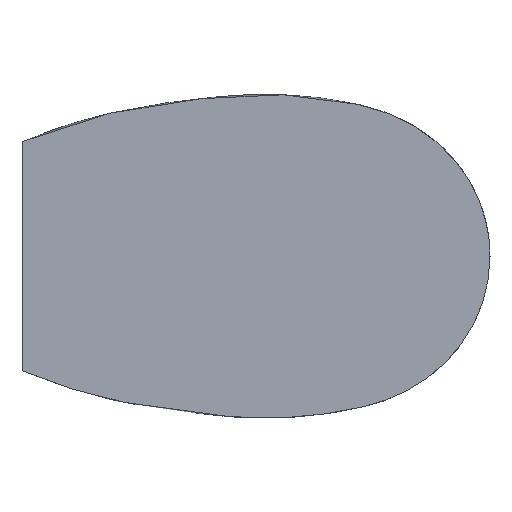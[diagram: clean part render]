
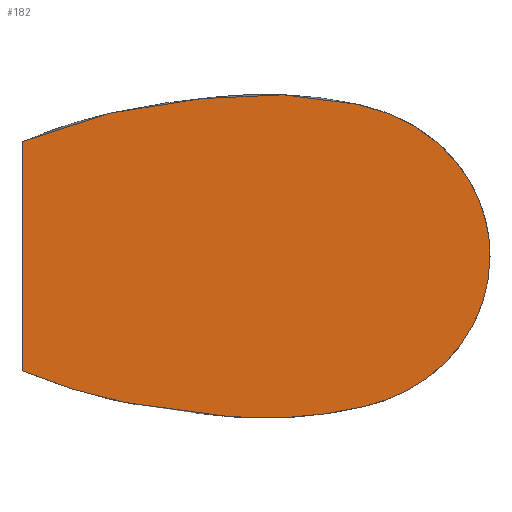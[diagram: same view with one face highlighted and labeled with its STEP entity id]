
A CAD part, left-side view. The second image highlights one B-rep face of the part: STEP entity #182.
In plain terms, the highlighted planar face has unit normal (-1, 0, 0).
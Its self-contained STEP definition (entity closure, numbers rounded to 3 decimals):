
#6=DIRECTION('',(0.,0.,1.));
#7=VECTOR('',#6,1.741);
#8=CARTESIAN_POINT('',(-9.,-0.3,-0.871));
#9=LINE('',#8,#7);
#10=CARTESIAN_POINT('',(-9.,-0.3,0.871));
#11=CARTESIAN_POINT('',(-9.,-0.44,0.929));
#12=CARTESIAN_POINT('',(-9.,-0.726,1.03));
#13=CARTESIAN_POINT('',(-9.,-1.094,1.119));
#14=CARTESIAN_POINT('',(-9.,-1.394,1.166));
#15=CARTESIAN_POINT('',(-9.,-1.585,1.187));
#16=CARTESIAN_POINT('',(-9.,-1.74,1.207));
#17=CARTESIAN_POINT('',(-9.,-1.899,1.222));
#18=CARTESIAN_POINT('',(-9.,-2.114,1.232));
#19=CARTESIAN_POINT('',(-9.,-2.34,1.226));
#20=CARTESIAN_POINT('',(-9.,-2.532,1.208));
#21=CARTESIAN_POINT('',(-9.,-2.679,1.187));
#22=CARTESIAN_POINT('',(-9.,-2.826,1.159));
#23=CARTESIAN_POINT('',(-9.,-3.023,1.114));
#24=CARTESIAN_POINT('',(-9.,-3.213,1.035));
#25=CARTESIAN_POINT('',(-9.,-3.385,0.924));
#26=CARTESIAN_POINT('',(-9.,-3.503,0.825));
#27=CARTESIAN_POINT('',(-9.,-3.607,0.711));
#28=CARTESIAN_POINT('',(-9.,-3.696,0.584));
#29=CARTESIAN_POINT('',(-9.,-3.766,0.447));
#30=CARTESIAN_POINT('',(-9.,-3.817,0.302));
#31=CARTESIAN_POINT('',(-9.,-3.848,0.152));
#32=CARTESIAN_POINT('',(-9.,-3.855,0.051));
#33=CARTESIAN_POINT('',(-9.,-3.855,0.));
#35=CARTESIAN_POINT('',(-9.,-3.855,0.));
#36=CARTESIAN_POINT('',(-9.,-3.855,-0.051));
#37=CARTESIAN_POINT('',(-9.,-3.848,-0.152));
#38=CARTESIAN_POINT('',(-9.,-3.817,-0.302));
#39=CARTESIAN_POINT('',(-9.,-3.766,-0.447));
#40=CARTESIAN_POINT('',(-9.,-3.696,-0.584));
#41=CARTESIAN_POINT('',(-9.,-3.607,-0.711));
#42=CARTESIAN_POINT('',(-9.,-3.503,-0.825));
#43=CARTESIAN_POINT('',(-9.,-3.385,-0.924));
#44=CARTESIAN_POINT('',(-9.,-3.213,-1.035));
#45=CARTESIAN_POINT('',(-9.,-3.023,-1.114));
#46=CARTESIAN_POINT('',(-9.,-2.826,-1.159));
#47=CARTESIAN_POINT('',(-9.,-2.679,-1.187));
#48=CARTESIAN_POINT('',(-9.,-2.532,-1.208));
#49=CARTESIAN_POINT('',(-9.,-2.34,-1.226));
#50=CARTESIAN_POINT('',(-9.,-2.114,-1.232));
#51=CARTESIAN_POINT('',(-9.,-1.899,-1.222));
#52=CARTESIAN_POINT('',(-9.,-1.74,-1.207));
#53=CARTESIAN_POINT('',(-9.,-1.585,-1.187));
#54=CARTESIAN_POINT('',(-9.,-1.394,-1.166));
#55=CARTESIAN_POINT('',(-9.,-1.094,-1.119));
#56=CARTESIAN_POINT('',(-9.,-0.726,-1.03));
#57=CARTESIAN_POINT('',(-9.,-0.44,-0.929));
#58=CARTESIAN_POINT('',(-9.,-0.3,-0.871));
#147=CARTESIAN_POINT('',(-9.,-0.3,-0.871));
#148=CARTESIAN_POINT('',(-9.,-0.3,0.871));
#149=VERTEX_POINT('',#147);
#150=VERTEX_POINT('',#148);
#151=VERTEX_POINT('',#35);
#170=CARTESIAN_POINT('',(-9.,0.,0.));
#171=DIRECTION('',(1.,0.,0.));
#172=DIRECTION('',(0.,0.,-1.));
#173=AXIS2_PLACEMENT_3D('',#170,#171,#172);
#174=PLANE('',#173);
#175=ORIENTED_EDGE('',*,*,#157,.T.);
#177=ORIENTED_EDGE('',*,*,#176,.T.);
#179=ORIENTED_EDGE('',*,*,#178,.T.);
#180=EDGE_LOOP('',(#175,#177,#179));
#181=FACE_OUTER_BOUND('',#180,.F.);
#182=ADVANCED_FACE('',(#181),#174,.F.);
#34=B_SPLINE_CURVE_WITH_KNOTS('',3,(#10,#11,#12,#13,#14,#15,#16,#17,#18,#19,#20,
#21,#22,#23,#24,#25,#26,#27,#28,#29,#30,#31,#32,#33),.UNSPECIFIED.,.F.,.F.,(4,1,
1,1,1,1,1,1,1,1,1,1,1,1,1,1,1,1,1,1,1,4),(0.,0.107,
0.213,0.266,0.321,0.348,
0.376,0.433,0.5,0.535,
0.57,0.605,0.64,0.712,
0.748,0.784,0.82,0.856,
0.892,0.929,0.964,1.),.UNSPECIFIED.);
#59=B_SPLINE_CURVE_WITH_KNOTS('',3,(#35,#36,#37,#38,#39,#40,#41,#42,#43,#44,#45,
#46,#47,#48,#49,#50,#51,#52,#53,#54,#55,#56,#57,#58),.UNSPECIFIED.,.F.,.F.,(4,1,
1,1,1,1,1,1,1,1,1,1,1,1,1,1,1,1,1,1,1,4),(0.,0.036,
0.071,0.108,0.144,0.18,
0.216,0.252,0.288,0.36,
0.395,0.43,0.465,0.5,
0.567,0.624,0.652,0.679,
0.734,0.787,0.893,1.),.UNSPECIFIED.);
#157=EDGE_CURVE('',#149,#150,#9,.T.);
#176=EDGE_CURVE('',#150,#151,#34,.T.);
#178=EDGE_CURVE('',#151,#149,#59,.T.);
